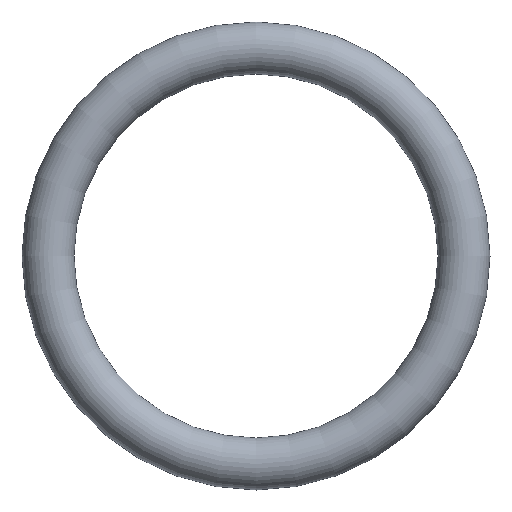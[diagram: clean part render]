
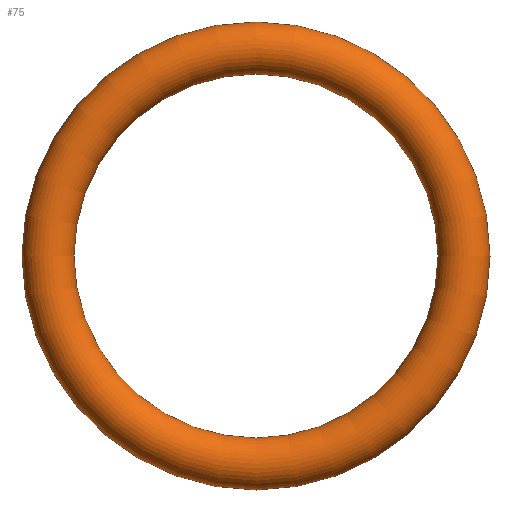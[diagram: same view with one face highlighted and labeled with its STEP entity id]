
A CAD part, front view. The second image highlights one B-rep face of the part: STEP entity #75.
In plain terms, the highlighted toroidal (fillet/blend) face has major radius 4 mm and minor radius 0.5 mm.
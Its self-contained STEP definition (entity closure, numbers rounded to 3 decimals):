
#75 = ADVANCED_FACE( '', ( #77 ), #78, .T. );
#77 = FACE_BOUND( '', #79, .T. );
#78 = TOROIDAL_SURFACE( '', #80, 4., 0.5 );
#79 = VERTEX_LOOP( '', #81 );
#80 = AXIS2_PLACEMENT_3D( '', #82, #83, #84 );
#81 = VERTEX_POINT( '', #85 );
#82 = CARTESIAN_POINT( '', ( 0., 0., 0. ) );
#83 = DIRECTION( '', ( 0., -1., 0. ) );
#84 = DIRECTION( '', ( 0., 0., -1. ) );
#85 = CARTESIAN_POINT( '', ( 0., 0., -4.5 ) );
